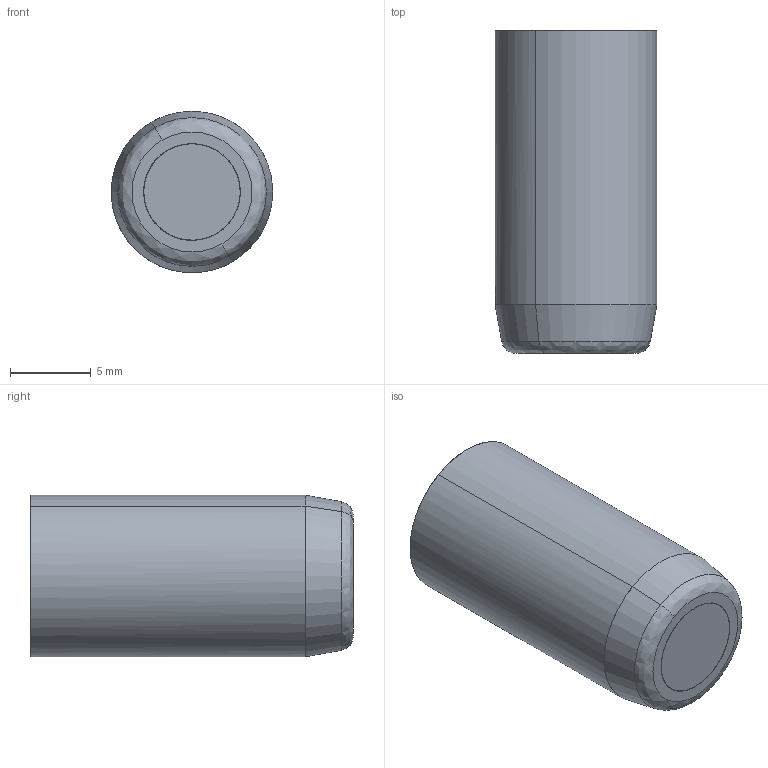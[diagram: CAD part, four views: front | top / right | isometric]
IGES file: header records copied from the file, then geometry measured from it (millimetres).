
Start section: START RECORD GO HERE.
Global section: file name: fa105706-20.igs; native system: DASSAULT SYSTEMES CATIA V5 R20 - www.3ds.com; preprocessor: CATIA Version 5 Release 20 ; author: Utente; organization: NB04-ASUS; date: 20201108.083710; units: millimetre
Bounding box: 10 x 20 x 10 mm (x, y, z)
Surface area: 1740.8 mm2 (no closed solid volume)
Topology: 0 solids, 0 shells, 374 faces, 1853 edges, 1846 vertices
Faces by surface type: revolution 170, plane 128, bspline 76
